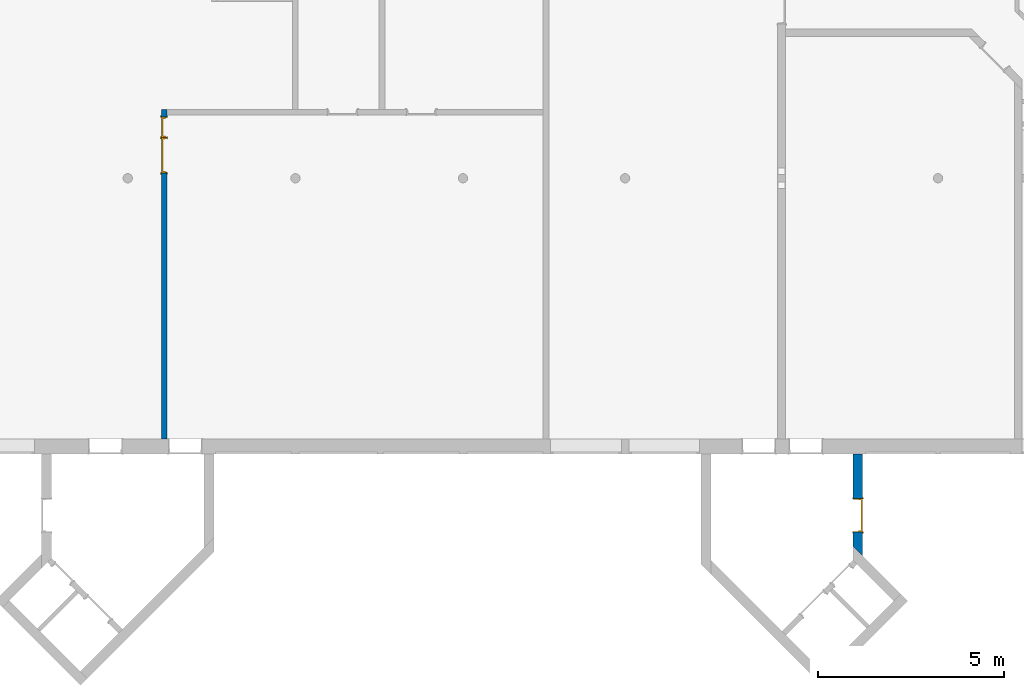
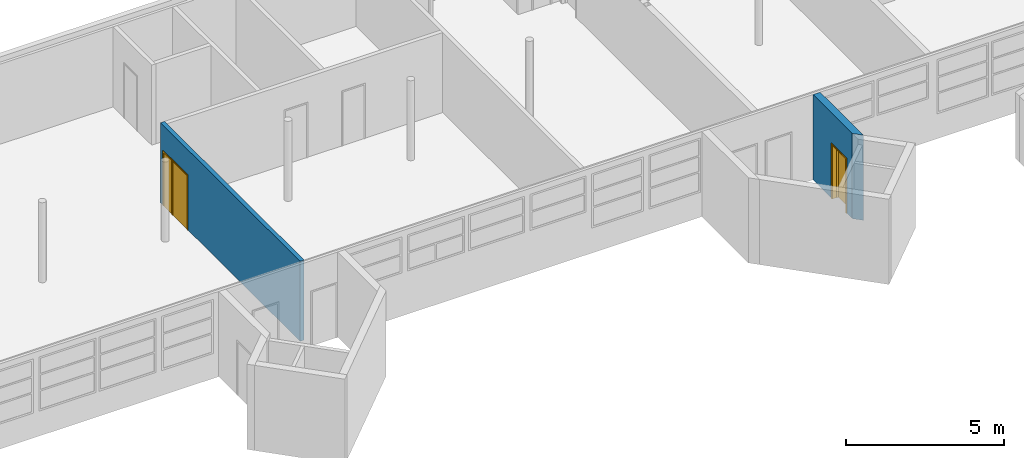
# One storey, part 2 of 25: 3 doors, 2 walls, 3 openings.
"""IFC2X3 building model written with IfcOpenShell, lengths in millimetres."""

from ifc_helpers import new_model, entity, si_unit, converted_unit, derived_unit, money_unit, direction, frame, origin_with_axes, place, context, subcontext, project, spatial, faceted_brep, source, transform, mapped, material, type_object, element, fill, save


model = new_model("IFC2X3")

# Units and contexts
model_context = context("Model", 3, precision=0.01, world=origin_with_axes(), true_north=direction((0.0, 1.0)))
body_context = subcontext(model_context, "Body", "Model", "MODEL_VIEW")
ifc_project = project(units=[si_unit("LENGTHUNIT", "METRE", prefix="MILLI"), si_unit("AREAUNIT", "SQUARE_METRE"), si_unit("VOLUMEUNIT", "CUBIC_METRE"), converted_unit("PLANEANGLEUNIT", "DEGREE", entity("IfcPlaneAngleMeasure", 0.0174532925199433), si_unit("PLANEANGLEUNIT", "RADIAN"), dimensions=[0, 0, 0, 0, 0, 0, 0]), money_unit("USD"), converted_unit("TIMEUNIT", "Year", entity("IfcTimeMeasure", 31557600.0), si_unit("TIMEUNIT", "SECOND"), dimensions=[0, 0, 1, 0, 0, 0, 0]), si_unit("MASSUNIT", "GRAM", prefix="KILO"), si_unit("THERMODYNAMICTEMPERATUREUNIT", "DEGREE_CELSIUS"), si_unit("LUMINOUSINTENSITYUNIT", "LUMEN"), si_unit("ENERGYUNIT", "JOULE", prefix="MEGA"), derived_unit("THERMALCONDUCTANCEUNIT", [(si_unit("POWERUNIT", "WATT"), 1), (si_unit("LENGTHUNIT", "METRE"), -1), (si_unit("THERMODYNAMICTEMPERATUREUNIT", "KELVIN"), -1)]), derived_unit("SPECIFICHEATCAPACITYUNIT", [(si_unit("ENERGYUNIT", "JOULE"), 1), (si_unit("MASSUNIT", "GRAM", prefix="KILO"), -1), (si_unit("THERMODYNAMICTEMPERATUREUNIT", "KELVIN"), -1)]), derived_unit("MASSDENSITYUNIT", [(si_unit("MASSUNIT", "GRAM", prefix="KILO"), 1), (si_unit("VOLUMEUNIT", "CUBIC_METRE"), -1)])], contexts=[model_context])

# Site, building, storey
site_placement = place(None, origin_with_axes())
site = spatial("IfcSite", under=ifc_project, at=site_placement, Name="Site", CompositionType="ELEMENT")
building_placement = place(site_placement, origin_with_axes())
building = spatial("IfcBuilding", under=site, at=building_placement, Name="Building", CompositionType="ELEMENT")
storey_placement = place(building_placement, origin_with_axes())
storey = spatial("IfcBuildingStorey", under=building, at=storey_placement, Name="U ETG", CompositionType="ELEMENT", Elevation=0.0)

# Wall, opening, door
ifc_material_1 = material(Name="GENERIC - STRUCTURAL")
wall_type_1 = type_object("IfcWallType", Name="GENERIC - STRUCTURAL 260", PredefinedType="NOTDEFINED")
wall_1_placement = place(storey_placement, frame((55467.8438427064, 4249.570929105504, 0.0), z_axis=(0.0, 0.0, 1.0), x_axis=(0.0, 1.0, 0.0)))
wall_1 = element("IfcWall", 1, at=wall_1_placement, inside=storey, type_object=wall_type_1, material=ifc_material_1, Name="SW - 001", context=body_context, shape_type="Brep", body=[
    faceted_brep([(750.0000000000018, -259.999999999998, 0.0), (750.0000000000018, -259.999999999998, 2100.0), (1650.000000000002, -259.999999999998, 2100.0), (1650.000000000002, -259.999999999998, 0.0), (2849.999999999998, -259.999999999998, 0.0), (2849.999999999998, -259.999999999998, 3300.0), (107.6955262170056, -259.999999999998, 3300.0), (107.6955262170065, -259.999999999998, 0.0), (750.0000000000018, 0.0, 0.0), (750.0000000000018, 0.0, 2100.0), (1650.000000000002, 0.0, 2100.0), (1650.000000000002, 0.0, 0.0), (2849.999999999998, 0.0, 0.0), (2849.999999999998, 0.0, 3300.0), (367.6955262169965, 0.0, 3300.0), (367.6955262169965, 0.0, 0.0)], [[[0, 1, 2, 3, 4, 5, 6, 7]], [[1, 0, 8, 9]], [[2, 1, 9, 10]], [[3, 2, 10, 11]], [[3, 11, 12, 4]], [[12, 13, 5, 4]], [[14, 6, 5, 13]], [[14, 15, 7, 6]], [[8, 0, 7, 15]], [[9, 8, 15, 14, 13, 12, 11, 10]]]),
])
opening_1_placement = place(wall_1_placement, frame((1200.000000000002, 0.0, 0.0), z_axis=(0.0, 0.0, 1.0), x_axis=(1.0, 0.0, 0.0)))
opening_1 = element("IfcOpeningElement", 2, at=opening_1_placement, cuts=wall_1, Name="DOO - 002", context=body_context, shape_type="Brep", body=[
    faceted_brep([(450.0000000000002, -260.9999999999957, 0.0), (450.0000000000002, -260.9999999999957, 2100.0), (-450.0000000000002, -260.9999999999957, 2100.0), (-450.0000000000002, -260.9999999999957, 0.0), (487.0000000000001, -260.9999999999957, 0.0), (487.0000000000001, -260.9999999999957, 2137.0), (-487.0000000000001, -260.9999999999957, 2137.0), (-487.0000000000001, -260.9999999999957, 0.0), (450.0000000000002, -259.999999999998, 0.0), (-450.0000000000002, -259.999999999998, 0.0), (-450.0000000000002, 0.0, 0.0), (-450.0000000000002, 0.9999999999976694, 0.0), (450.0000000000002, 0.9999999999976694, 0.0), (450.0000000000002, 0.0, 0.0), (487.0000000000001, -259.999999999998, 0.0), (487.0000000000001, -259.999999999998, 2137.0), (-487.0000000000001, -259.999999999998, 2137.0), (-487.0000000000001, -259.999999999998, 0.0), (-450.0000000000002, -259.999999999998, 2100.0), (-450.0000000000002, 0.0, 2100.0), (-487.0000000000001, 0.0, 0.0), (-487.0000000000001, 0.9999999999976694, 0.0), (-487.0000000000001, 0.9999999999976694, 2137.0), (487.0000000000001, 0.9999999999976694, 2137.0), (487.0000000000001, 0.9999999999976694, 0.0), (487.0000000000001, 0.0, 0.0), (450.0000000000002, -259.999999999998, 2100.0), (450.0000000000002, 0.0, 2100.0), (487.0000000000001, 0.0, 2137.0), (-487.0000000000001, 0.0, 2137.0)], [[[0, 1, 2, 3]], [[2, 1, 0, 4, 5, 6, 7, 3]], [[8, 0, 3, 9, 10, 11, 12, 13]], [[0, 8, 14, 4]], [[14, 15, 5, 4]], [[15, 16, 6, 5]], [[16, 17, 7, 6]], [[9, 3, 7, 17]], [[9, 18, 19, 10]], [[11, 10, 20, 21]], [[12, 11, 21, 22, 23, 24]], [[13, 12, 24, 25]], [[26, 8, 13, 27]], [[8, 26, 18, 9, 17, 16, 15, 14]], [[18, 26, 27, 19]], [[19, 27, 13, 25, 28, 29, 20, 10]], [[20, 29, 22, 21]], [[29, 28, 23, 22]], [[28, 25, 24, 23]]]),
])
door_style_1 = type_object("IfcDoorStyle", Name="Dør", ConstructionType="NOTDEFINED", OperationType="SINGLE_SWING_LEFT", ParameterTakesPrecedence=False, Sizeable=False)
shared_shape_1 = source(origin_with_axes(), body_context, "Body", "Brep", [
    faceted_brep([(450.0, -115.0, 0.0), (450.0, -260.0, 0.0), (425.0, -260.0, 0.0), (425.0, -115.0, 0.0), (450.0, -115.0000000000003, 2100.0), (450.0, -260.0000000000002, 2100.0), (425.0, -260.0000000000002, 2075.0), (425.0, -115.0000000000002, 2075.0)], [[[0, 1, 2, 3]], [[4, 5, 1, 0]], [[1, 5, 6, 2]], [[3, 2, 6, 7]], [[0, 3, 7, 4]], [[7, 6, 5, 4]]]),
    faceted_brep([(-450.0, -115.0000000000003, 2100.0), (-450.0, -260.0000000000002, 2100.0), (-425.0, -260.0000000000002, 2075.0), (-425.0, -115.0000000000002, 2075.0), (-450.0, -115.0, 0.0), (-450.0, -260.0, 0.0), (-425.0, -260.0, 0.0), (-425.0, -115.0, 0.0)], [[[0, 1, 2, 3]], [[4, 5, 1, 0]], [[1, 5, 6, 2]], [[3, 2, 6, 7]], [[0, 3, 7, 4]], [[7, 6, 5, 4]]]),
    faceted_brep([(425.0, -115.0000000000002, 2075.0), (425.0, -260.0000000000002, 2075.0), (-425.0, -260.0000000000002, 2075.0), (-425.0, -115.0000000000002, 2075.0), (450.0, -115.0000000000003, 2100.0), (450.0, -260.0000000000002, 2100.0), (-450.0, -260.0000000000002, 2100.0), (-450.0, -115.0000000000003, 2100.0)], [[[0, 1, 2, 3]], [[4, 5, 1, 0]], [[1, 5, 6, 2]], [[3, 2, 6, 7]], [[0, 3, 7, 4]], [[7, 6, 5, 4]]]),
    faceted_brep([(487.0, -279.0, 0.0), (437.0, -279.0, 0.0), (437.0, -260.0, 0.0), (487.0, -260.0, 0.0), (487.0, -279.0000000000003, 2137.0), (437.0, -279.0000000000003, 2087.0), (437.0, -260.0000000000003, 2087.0), (487.0, -260.0000000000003, 2137.0)], [[[0, 1, 2, 3]], [[0, 4, 5, 1]], [[1, 5, 6, 2]], [[3, 2, 6, 7]], [[4, 0, 3, 7]], [[5, 4, 7, 6]]]),
    faceted_brep([(-487.0, -279.0000000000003, 2137.0), (-437.0, -279.0000000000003, 2087.0), (-437.0, -260.0000000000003, 2087.0), (-487.0, -260.0000000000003, 2137.0), (-487.0, -279.0, 0.0), (-437.0, -279.0, 0.0), (-437.0, -260.0, 0.0), (-487.0, -260.0, 0.0)], [[[0, 1, 2, 3]], [[0, 4, 5, 1]], [[1, 5, 6, 2]], [[3, 2, 6, 7]], [[4, 0, 3, 7]], [[5, 4, 7, 6]]]),
    faceted_brep([(487.0, -279.0000000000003, 2137.0), (437.0, -279.0000000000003, 2087.0), (437.0, -260.0000000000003, 2087.0), (487.0, -260.0000000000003, 2137.0), (-487.0, -279.0000000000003, 2137.0), (-437.0, -279.0000000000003, 2087.0), (-437.0, -260.0000000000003, 2087.0), (-487.0, -260.0000000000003, 2137.0)], [[[0, 1, 2, 3]], [[0, 4, 5, 1]], [[1, 5, 6, 2]], [[3, 2, 6, 7]], [[4, 0, 3, 7]], [[5, 4, 7, 6]]]),
    faceted_brep([(487.0, 19.0, 0.0), (487.0, 0.0, 0.0), (437.0, 0.0, 0.0), (437.0, 19.0, 0.0), (487.0, 18.99999999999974, 2137.0), (487.0, 0.0, 2137.0), (437.0, 0.0, 2087.0), (437.0, 18.99999999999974, 2087.0)], [[[0, 1, 2, 3]], [[4, 5, 1, 0]], [[1, 5, 6, 2]], [[3, 2, 6, 7]], [[0, 3, 7, 4]], [[7, 6, 5, 4]]]),
    faceted_brep([(-487.0, 18.99999999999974, 2137.0), (-487.0, 0.0, 2137.0), (-437.0, 0.0, 2087.0), (-437.0, 18.99999999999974, 2087.0), (-487.0, 19.0, 0.0), (-487.0, 0.0, 0.0), (-437.0, 0.0, 0.0), (-437.0, 19.0, 0.0)], [[[0, 1, 2, 3]], [[4, 5, 1, 0]], [[1, 5, 6, 2]], [[3, 2, 6, 7]], [[0, 3, 7, 4]], [[7, 6, 5, 4]]]),
    faceted_brep([(487.0, 18.99999999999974, 2137.0), (487.0, 0.0, 2137.0), (437.0, 0.0, 2087.0), (437.0, 18.99999999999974, 2087.0), (-487.0, 18.99999999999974, 2137.0), (-487.0, 0.0, 2137.0), (-437.0, 0.0, 2087.0), (-437.0, 18.99999999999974, 2087.0)], [[[0, 1, 2, 3]], [[4, 5, 1, 0]], [[1, 5, 6, 2]], [[3, 2, 6, 7]], [[0, 3, 7, 4]], [[7, 6, 5, 4]]]),
    faceted_brep([(450.0, 0.0, 0.0), (450.0, -115.0, 0.0), (410.0000000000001, -115.0, 0.0), (410.0000000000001, 0.0, 0.0), (450.0, 0.0, 2060.0), (450.0, -115.0, 2060.0), (410.0000000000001, -115.0, 2060.0), (410.0000000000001, 0.0, 2060.0)], [[[0, 1, 2, 3]], [[4, 5, 1, 0]], [[1, 5, 6, 2]], [[3, 2, 6, 7]], [[0, 3, 7, 4]], [[7, 6, 5, 4]]]),
    faceted_brep([(-450.0, 0.0, 0.0), (-450.0, -115.0, 0.0), (-450.0, -115.0, 2060.0), (-450.0, 0.0, 2060.0), (-410.0000000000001, 0.0, 0.0), (-410.0000000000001, -115.0, 0.0), (-410.0000000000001, -115.0, 2060.0), (-410.0000000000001, 0.0, 2060.0)], [[[0, 1, 2, 3]], [[4, 5, 1, 0]], [[1, 5, 6, 2]], [[3, 2, 6, 7]], [[0, 3, 7, 4]], [[7, 6, 5, 4]]]),
    faceted_brep([(450.0, 0.0, 2100.0), (450.0, -115.0, 2100.0), (450.0, -115.0, 2060.0), (450.0, 0.0, 2060.0), (-450.0, 0.0, 2100.0), (-450.0, -115.0, 2100.0), (-450.0, -115.0, 2060.0), (-410.0000000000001, -115.0, 2060.0), (410.0000000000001, -115.0, 2060.0), (410.0000000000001, 0.0, 2060.0), (-410.0000000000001, 0.0, 2060.0), (-450.0, 0.0, 2060.0)], [[[0, 1, 2, 3]], [[4, 5, 1, 0]], [[1, 5, 6, 7, 8, 2]], [[3, 2, 8, 9]], [[0, 3, 9, 10, 11, 4]], [[11, 6, 5, 4]], [[10, 7, 6, 11]], [[9, 8, 7, 10]]]),
    faceted_brep([(-409.9999999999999, 0.0, 0.0), (410.0000000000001, 0.0, 0.0), (410.0000000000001, -40.0, 0.0), (-409.9999999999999, -40.0, 0.0), (-409.9999999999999, 0.0, 2060.0), (410.0000000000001, 0.0, 2060.0), (410.0000000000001, -40.00000000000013, 2060.0), (-409.9999999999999, -40.00000000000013, 2060.0)], [[[0, 1, 2, 3]], [[0, 4, 5, 1]], [[1, 5, 6, 2]], [[3, 2, 6, 7]], [[4, 0, 3, 7]], [[5, 4, 7, 6]]]),
])
door_1_placement = place(opening_1_placement, frame((450.0000000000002, 0.0, 0.0), z_axis=(0.0, 0.0, 1.0), x_axis=(-1.0, 0.0, 0.0)))
door_1 = element("IfcDoor", 3, at=door_1_placement, inside=storey, type_object=door_style_1, Name="DOO - 002", ObjectType="DOOR", OverallHeight=2100.0, OverallWidth=900.0, context=body_context, shape_type="MappedRepresentation", body=[
    mapped(shared_shape_1, transform((450.0000000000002, 259.999999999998, 0.0))),
])
fill(opening_1, door_1)

# Wall, openings, doors
ifc_material_2 = material(Name="GENERIC - INTERNAL FILLER")
wall_type_2 = type_object("IfcWallType", Name="GENERIC - INTERNAL FILLER 150", PredefinedType="NOTDEFINED")
wall_2_placement = place(storey_placement, frame((37050.0, 7499.570929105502, 0.0), z_axis=(0.0, 0.0, 1.0), x_axis=(0.0, 1.0, 0.0)))
wall_2 = element("IfcWall", 4, at=wall_2_placement, inside=storey, type_object=wall_type_2, material=ifc_material_2, Name="SW - 001", context=body_context, shape_type="Brep", body=[
    faceted_brep([(8649.999999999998, 0.0, 2100.0), (8649.999999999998, 0.0, 0.0), (8849.999999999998, 0.0, 0.0), (8849.999999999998, 0.0, 3100.0), (0.0, 0.0, 3100.0), (0.0, 0.0, 0.0), (7139.664467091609, 0.0, 0.0), (7139.664467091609, 0.0, 2100.0), (8089.664467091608, 0.0, 2100.0), (8649.999999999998, 149.9999999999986, 2100.0), (8649.999999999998, 149.9999999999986, 0.0), (8849.999999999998, 149.9999999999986, 0.0), (8849.999999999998, 149.9999999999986, 3100.0), (0.0, 149.9999999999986, 3100.0), (0.0, 149.9999999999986, 0.0), (7139.664467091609, 149.9999999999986, 0.0), (7139.664467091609, 149.9999999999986, 2100.0), (8089.664467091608, 149.9999999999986, 2100.0)], [[[0, 1, 2, 3, 4, 5, 6, 7, 8]], [[1, 0, 9, 10]], [[1, 10, 11, 2]], [[12, 3, 2, 11]], [[13, 4, 3, 12]], [[5, 4, 13, 14]], [[6, 5, 14, 15]], [[6, 15, 16, 7]], [[0, 8, 7, 16, 17, 9]], [[9, 17, 16, 15, 14, 13, 12, 11, 10]]]),
])
opening_2_placement = place(wall_2_placement, frame((8369.617698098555, 0.0, 0.0), z_axis=(0.0, 0.0, 1.0), x_axis=(1.0, 0.0, 0.0)))
opening_2 = element("IfcOpeningElement", 5, at=opening_2_placement, cuts=wall_2, Name="DOO - 002", context=body_context, shape_type="Brep", body=[
    faceted_brep([(280.3823019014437, 149.9999999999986, 0.0), (280.3823019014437, 149.9999999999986, 2100.0), (280.3823019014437, 0.0, 2100.0), (280.3823019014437, 0.0, 0.0), (-280.3823019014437, 149.9999999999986, 2100.0), (317.3823019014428, 149.9999999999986, 0.0), (317.3823019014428, 149.9999999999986, 2137.0), (-317.3823019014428, 149.9999999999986, 2137.0), (-317.3823019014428, 149.9999999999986, 0.0), (-280.3823019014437, 149.9999999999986, 0.0), (-280.3823019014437, 0.0, 2100.0), (-280.3823019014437, 0.0, 0.0), (-317.3823019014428, 0.0, 0.0), (-317.3823019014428, 0.0, 2137.0), (317.3823019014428, 0.0, 2137.0), (317.3823019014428, 0.0, 0.0), (280.3823019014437, 150.9999999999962, 0.0), (280.3823019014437, -0.9999999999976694, 0.0), (-280.3823019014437, -0.9999999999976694, 0.0), (-280.3823019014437, 150.9999999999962, 0.0), (317.3823019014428, 150.9999999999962, 0.0), (317.3823019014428, 150.9999999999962, 2137.0), (-317.3823019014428, 150.9999999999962, 2137.0), (-317.3823019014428, 150.9999999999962, 0.0), (-317.3823019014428, -0.9999999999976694, 0.0), (-317.3823019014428, -0.9999999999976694, 2137.0), (317.3823019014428, -0.9999999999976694, 2137.0), (317.3823019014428, -0.9999999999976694, 0.0), (280.3823019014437, 150.9999999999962, 2100.0), (-280.3823019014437, 150.9999999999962, 2100.0)], [[[0, 1, 2, 3]], [[4, 1, 0, 5, 6, 7, 8, 9]], [[1, 4, 10, 2]], [[3, 2, 10, 11, 12, 13, 14, 15]], [[16, 0, 3, 17, 18, 11, 9, 19]], [[0, 16, 20, 5]], [[6, 5, 20, 21]], [[7, 6, 21, 22]], [[8, 7, 22, 23]], [[19, 9, 8, 23]], [[4, 9, 11, 10]], [[11, 18, 24, 12]], [[13, 12, 24, 25]], [[14, 13, 25, 26]], [[15, 14, 26, 27]], [[17, 3, 15, 27]], [[17, 27, 26, 25, 24, 18]], [[28, 16, 19, 29]], [[16, 28, 29, 19, 23, 22, 21, 20]]]),
])
opening_3_placement = place(wall_2_placement, frame((7614.664467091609, 0.0, 0.0), z_axis=(0.0, 0.0, 1.0), x_axis=(1.0, 0.0, 0.0)))
opening_3 = element("IfcOpeningElement", 6, at=opening_3_placement, cuts=wall_2, Name="DOO - 002", context=body_context, shape_type="Brep", body=[
    faceted_brep([(474.9999999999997, 149.9999999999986, 0.0), (474.9999999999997, 149.9999999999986, 2100.0), (474.9999999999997, 0.0, 2100.0), (474.9999999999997, 0.0, 0.0), (-474.9999999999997, 149.9999999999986, 2100.0), (511.9999999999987, 149.9999999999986, 0.0), (511.9999999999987, 149.9999999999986, 2137.0), (-511.9999999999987, 149.9999999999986, 2137.0), (-511.9999999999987, 149.9999999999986, 0.0), (-474.9999999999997, 149.9999999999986, 0.0), (-474.9999999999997, 0.0, 2100.0), (-474.9999999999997, 0.0, 0.0), (-511.9999999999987, 0.0, 0.0), (-511.9999999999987, 0.0, 2137.0), (511.9999999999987, 0.0, 2137.0), (511.9999999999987, 0.0, 0.0), (474.9999999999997, 150.9999999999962, 0.0), (474.9999999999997, -0.9999999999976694, 0.0), (-474.9999999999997, -0.9999999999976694, 0.0), (-474.9999999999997, 150.9999999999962, 0.0), (511.9999999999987, 150.9999999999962, 0.0), (511.9999999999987, 150.9999999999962, 2137.0), (-511.9999999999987, 150.9999999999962, 2137.0), (-511.9999999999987, 150.9999999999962, 0.0), (-511.9999999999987, -0.9999999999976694, 0.0), (-511.9999999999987, -0.9999999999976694, 2137.0), (511.9999999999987, -0.9999999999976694, 2137.0), (511.9999999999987, -0.9999999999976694, 0.0), (474.9999999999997, 150.9999999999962, 2100.0), (-474.9999999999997, 150.9999999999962, 2100.0)], [[[0, 1, 2, 3]], [[4, 1, 0, 5, 6, 7, 8, 9]], [[1, 4, 10, 2]], [[3, 2, 10, 11, 12, 13, 14, 15]], [[16, 0, 3, 17, 18, 11, 9, 19]], [[0, 16, 20, 5]], [[6, 5, 20, 21]], [[7, 6, 21, 22]], [[8, 7, 22, 23]], [[19, 9, 8, 23]], [[4, 9, 11, 10]], [[11, 18, 24, 12]], [[13, 12, 24, 25]], [[14, 13, 25, 26]], [[15, 14, 26, 27]], [[17, 3, 15, 27]], [[17, 27, 26, 25, 24, 18]], [[28, 16, 19, 29]], [[16, 28, 29, 19, 23, 22, 21, 20]]]),
])
door_style_2 = type_object("IfcDoorStyle", Name="Dør", ConstructionType="NOTDEFINED", OperationType="SINGLE_SWING_LEFT", ParameterTakesPrecedence=False, Sizeable=False)
shared_shape_2 = source(origin_with_axes(), body_context, "Body", "Brep", [
    faceted_brep([(474.9999999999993, -115.0, 0.0), (474.9999999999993, -150.0, 0.0), (449.9999999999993, -150.0, 0.0), (449.9999999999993, -115.0, 0.0), (474.9999999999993, -115.0000000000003, 2100.0), (474.9999999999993, -150.0000000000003, 2100.0), (449.9999999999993, -150.0000000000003, 2075.0), (449.9999999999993, -115.0000000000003, 2075.0)], [[[0, 1, 2, 3]], [[4, 5, 1, 0]], [[1, 5, 6, 2]], [[3, 2, 6, 7]], [[0, 3, 7, 4]], [[7, 6, 5, 4]]]),
    faceted_brep([(-474.9999999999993, -115.0000000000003, 2100.0), (-474.9999999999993, -150.0000000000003, 2100.0), (-449.9999999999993, -150.0000000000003, 2075.0), (-449.9999999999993, -115.0000000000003, 2075.0), (-474.9999999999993, -115.0, 0.0), (-474.9999999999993, -150.0, 0.0), (-449.9999999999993, -150.0, 0.0), (-449.9999999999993, -115.0, 0.0)], [[[0, 1, 2, 3]], [[4, 5, 1, 0]], [[1, 5, 6, 2]], [[3, 2, 6, 7]], [[0, 3, 7, 4]], [[7, 6, 5, 4]]]),
    faceted_brep([(449.9999999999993, -115.0000000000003, 2075.0), (449.9999999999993, -150.0000000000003, 2075.0), (-449.9999999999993, -150.0000000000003, 2075.0), (-449.9999999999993, -115.0000000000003, 2075.0), (474.9999999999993, -115.0000000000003, 2100.0), (474.9999999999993, -150.0000000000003, 2100.0), (-474.9999999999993, -150.0000000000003, 2100.0), (-474.9999999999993, -115.0000000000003, 2100.0)], [[[0, 1, 2, 3]], [[4, 5, 1, 0]], [[1, 5, 6, 2]], [[3, 2, 6, 7]], [[0, 3, 7, 4]], [[7, 6, 5, 4]]]),
    faceted_brep([(511.9999999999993, -169.0, 0.0), (461.9999999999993, -169.0, 0.0), (461.9999999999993, -150.0, 0.0), (511.9999999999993, -150.0, 0.0), (511.9999999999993, -169.0000000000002, 2137.0), (461.9999999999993, -169.0000000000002, 2087.0), (461.9999999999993, -150.0000000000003, 2087.0), (511.9999999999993, -150.0000000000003, 2137.0)], [[[0, 1, 2, 3]], [[0, 4, 5, 1]], [[1, 5, 6, 2]], [[3, 2, 6, 7]], [[4, 0, 3, 7]], [[5, 4, 7, 6]]]),
    faceted_brep([(-511.9999999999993, -169.0000000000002, 2137.0), (-461.9999999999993, -169.0000000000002, 2087.0), (-461.9999999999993, -150.0000000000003, 2087.0), (-511.9999999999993, -150.0000000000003, 2137.0), (-511.9999999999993, -169.0, 0.0), (-461.9999999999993, -169.0, 0.0), (-461.9999999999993, -150.0, 0.0), (-511.9999999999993, -150.0, 0.0)], [[[0, 1, 2, 3]], [[0, 4, 5, 1]], [[1, 5, 6, 2]], [[3, 2, 6, 7]], [[4, 0, 3, 7]], [[5, 4, 7, 6]]]),
    faceted_brep([(511.9999999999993, -169.0000000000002, 2137.0), (461.9999999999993, -169.0000000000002, 2087.0), (461.9999999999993, -150.0000000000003, 2087.0), (511.9999999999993, -150.0000000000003, 2137.0), (-511.9999999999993, -169.0000000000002, 2137.0), (-461.9999999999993, -169.0000000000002, 2087.0), (-461.9999999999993, -150.0000000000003, 2087.0), (-511.9999999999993, -150.0000000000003, 2137.0)], [[[0, 1, 2, 3]], [[0, 4, 5, 1]], [[1, 5, 6, 2]], [[3, 2, 6, 7]], [[4, 0, 3, 7]], [[5, 4, 7, 6]]]),
    faceted_brep([(511.9999999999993, 19.0, 0.0), (511.9999999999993, 0.0, 0.0), (461.9999999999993, 0.0, 0.0), (461.9999999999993, 19.0, 0.0), (511.9999999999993, 18.99999999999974, 2137.0), (511.9999999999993, 0.0, 2137.0), (461.9999999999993, 0.0, 2087.0), (461.9999999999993, 18.99999999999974, 2087.0)], [[[0, 1, 2, 3]], [[4, 5, 1, 0]], [[1, 5, 6, 2]], [[3, 2, 6, 7]], [[0, 3, 7, 4]], [[7, 6, 5, 4]]]),
    faceted_brep([(-511.9999999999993, 18.99999999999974, 2137.0), (-511.9999999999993, 0.0, 2137.0), (-461.9999999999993, 0.0, 2087.0), (-461.9999999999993, 18.99999999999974, 2087.0), (-511.9999999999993, 19.0, 0.0), (-511.9999999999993, 0.0, 0.0), (-461.9999999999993, 0.0, 0.0), (-461.9999999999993, 19.0, 0.0)], [[[0, 1, 2, 3]], [[4, 5, 1, 0]], [[1, 5, 6, 2]], [[3, 2, 6, 7]], [[0, 3, 7, 4]], [[7, 6, 5, 4]]]),
    faceted_brep([(511.9999999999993, 18.99999999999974, 2137.0), (511.9999999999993, 0.0, 2137.0), (461.9999999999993, 0.0, 2087.0), (461.9999999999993, 18.99999999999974, 2087.0), (-511.9999999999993, 18.99999999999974, 2137.0), (-511.9999999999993, 0.0, 2137.0), (-461.9999999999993, 0.0, 2087.0), (-461.9999999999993, 18.99999999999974, 2087.0)], [[[0, 1, 2, 3]], [[4, 5, 1, 0]], [[1, 5, 6, 2]], [[3, 2, 6, 7]], [[0, 3, 7, 4]], [[7, 6, 5, 4]]]),
    faceted_brep([(474.9999999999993, 0.0, 0.0), (474.9999999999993, -115.0, 0.0), (434.9999999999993, -115.0, 0.0), (434.9999999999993, 0.0, 0.0), (474.9999999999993, 0.0, 2060.0), (474.9999999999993, -115.0, 2060.0), (434.9999999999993, -115.0, 2060.0), (434.9999999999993, 0.0, 2060.0)], [[[0, 1, 2, 3]], [[4, 5, 1, 0]], [[1, 5, 6, 2]], [[3, 2, 6, 7]], [[0, 3, 7, 4]], [[7, 6, 5, 4]]]),
    faceted_brep([(-474.9999999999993, 0.0, 0.0), (-474.9999999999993, -115.0, 0.0), (-474.9999999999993, -115.0, 2060.0), (-474.9999999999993, 0.0, 2060.0), (-434.9999999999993, 0.0, 0.0), (-434.9999999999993, -115.0, 0.0), (-434.9999999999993, -115.0, 2060.0), (-434.9999999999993, 0.0, 2060.0)], [[[0, 1, 2, 3]], [[4, 5, 1, 0]], [[1, 5, 6, 2]], [[3, 2, 6, 7]], [[0, 3, 7, 4]], [[7, 6, 5, 4]]]),
    faceted_brep([(474.9999999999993, 0.0, 2100.0), (474.9999999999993, -115.0, 2100.0), (474.9999999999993, -115.0, 2060.0), (474.9999999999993, 0.0, 2060.0), (-474.9999999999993, 0.0, 2100.0), (-474.9999999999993, -115.0, 2100.0), (-474.9999999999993, -115.0, 2060.0), (-434.9999999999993, -115.0, 2060.0), (434.9999999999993, -115.0, 2060.0), (434.9999999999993, 0.0, 2060.0), (-434.9999999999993, 0.0, 2060.0), (-474.9999999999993, 0.0, 2060.0)], [[[0, 1, 2, 3]], [[4, 5, 1, 0]], [[1, 5, 6, 7, 8, 2]], [[3, 2, 8, 9]], [[0, 3, 9, 10, 11, 4]], [[11, 6, 5, 4]], [[10, 7, 6, 11]], [[9, 8, 7, 10]]]),
    faceted_brep([(-434.9999999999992, 0.0, 0.0), (434.9999999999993, 0.0, 0.0), (434.9999999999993, -40.0, 0.0), (-434.9999999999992, -40.0, 0.0), (-434.9999999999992, 0.0, 2060.0), (434.9999999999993, 0.0, 2060.0), (434.9999999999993, -40.00000000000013, 2060.0), (-434.9999999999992, -40.00000000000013, 2060.0)], [[[0, 1, 2, 3]], [[0, 4, 5, 1]], [[1, 5, 6, 2]], [[3, 2, 6, 7]], [[4, 0, 3, 7]], [[5, 4, 7, 6]]]),
])
door_2_placement = place(opening_3_placement, frame((-474.9999999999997, 0.0, 0.0), z_axis=(0.0, 0.0, 1.0), x_axis=(1.0, 0.0, 0.0)))
door_2 = element("IfcDoor", 7, at=door_2_placement, inside=storey, type_object=door_style_2, Name="DOO - 002", ObjectType="DOOR", OverallHeight=2100.0, OverallWidth=950.0, context=body_context, shape_type="MappedRepresentation", body=[
    mapped(shared_shape_2, transform((474.9999999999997, 149.9999999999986, 0.0))),
])
fill(opening_3, door_2)
door_style_3 = type_object("IfcDoorStyle", Name="Dør", ConstructionType="NOTDEFINED", OperationType="SINGLE_SWING_RIGHT", ParameterTakesPrecedence=False, Sizeable=False)
shared_shape_3 = source(origin_with_axes(), body_context, "Body", "Brep", [
    faceted_brep([(-280.3823019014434, -115.0, 0.0), (-255.3823019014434, -115.0, 0.0), (-255.3823019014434, -150.0, 0.0), (-280.3823019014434, -150.0, 0.0), (-280.3823019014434, -115.0000000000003, 2100.0), (-255.3823019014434, -115.0000000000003, 2075.0), (-255.3823019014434, -150.0000000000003, 2075.0), (-280.3823019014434, -150.0000000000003, 2100.0)], [[[0, 1, 2, 3]], [[0, 4, 5, 1]], [[1, 5, 6, 2]], [[3, 2, 6, 7]], [[4, 0, 3, 7]], [[5, 4, 7, 6]]]),
    faceted_brep([(280.3823019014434, -115.0000000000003, 2100.0), (255.3823019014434, -115.0000000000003, 2075.0), (255.3823019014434, -150.0000000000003, 2075.0), (280.3823019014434, -150.0000000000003, 2100.0), (280.3823019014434, -115.0, 0.0), (255.3823019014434, -115.0, 0.0), (255.3823019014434, -150.0, 0.0), (280.3823019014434, -150.0, 0.0)], [[[0, 1, 2, 3]], [[0, 4, 5, 1]], [[1, 5, 6, 2]], [[3, 2, 6, 7]], [[4, 0, 3, 7]], [[5, 4, 7, 6]]]),
    faceted_brep([(-255.3823019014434, -115.0000000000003, 2075.0), (255.3823019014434, -115.0000000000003, 2075.0), (255.3823019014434, -150.0000000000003, 2075.0), (-255.3823019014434, -150.0000000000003, 2075.0), (-280.3823019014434, -115.0000000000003, 2100.0), (280.3823019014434, -115.0000000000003, 2100.0), (280.3823019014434, -150.0000000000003, 2100.0), (-280.3823019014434, -150.0000000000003, 2100.0)], [[[0, 1, 2, 3]], [[0, 4, 5, 1]], [[1, 5, 6, 2]], [[3, 2, 6, 7]], [[4, 0, 3, 7]], [[5, 4, 7, 6]]]),
    faceted_brep([(-317.3823019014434, -169.0, 0.0), (-317.3823019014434, -150.0, 0.0), (-267.3823019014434, -150.0, 0.0), (-267.3823019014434, -169.0, 0.0), (-317.3823019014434, -169.0000000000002, 2137.0), (-317.3823019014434, -150.0000000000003, 2137.0), (-267.3823019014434, -150.0000000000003, 2087.0), (-267.3823019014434, -169.0000000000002, 2087.0)], [[[0, 1, 2, 3]], [[4, 5, 1, 0]], [[1, 5, 6, 2]], [[3, 2, 6, 7]], [[0, 3, 7, 4]], [[7, 6, 5, 4]]]),
    faceted_brep([(317.3823019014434, -169.0000000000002, 2137.0), (317.3823019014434, -150.0000000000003, 2137.0), (267.3823019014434, -150.0000000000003, 2087.0), (267.3823019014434, -169.0000000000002, 2087.0), (317.3823019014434, -169.0, 0.0), (317.3823019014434, -150.0, 0.0), (267.3823019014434, -150.0, 0.0), (267.3823019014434, -169.0, 0.0)], [[[0, 1, 2, 3]], [[4, 5, 1, 0]], [[1, 5, 6, 2]], [[3, 2, 6, 7]], [[0, 3, 7, 4]], [[7, 6, 5, 4]]]),
    faceted_brep([(-317.3823019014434, -169.0000000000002, 2137.0), (-317.3823019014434, -150.0000000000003, 2137.0), (-267.3823019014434, -150.0000000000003, 2087.0), (-267.3823019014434, -169.0000000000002, 2087.0), (317.3823019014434, -169.0000000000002, 2137.0), (317.3823019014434, -150.0000000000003, 2137.0), (267.3823019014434, -150.0000000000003, 2087.0), (267.3823019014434, -169.0000000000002, 2087.0)], [[[0, 1, 2, 3]], [[4, 5, 1, 0]], [[1, 5, 6, 2]], [[3, 2, 6, 7]], [[0, 3, 7, 4]], [[7, 6, 5, 4]]]),
    faceted_brep([(-317.3823019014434, 19.0, 0.0), (-267.3823019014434, 19.0, 0.0), (-267.3823019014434, 0.0, 0.0), (-317.3823019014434, 0.0, 0.0), (-317.3823019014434, 18.99999999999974, 2137.0), (-267.3823019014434, 18.99999999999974, 2087.0), (-267.3823019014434, 0.0, 2087.0), (-317.3823019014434, 0.0, 2137.0)], [[[0, 1, 2, 3]], [[0, 4, 5, 1]], [[1, 5, 6, 2]], [[3, 2, 6, 7]], [[4, 0, 3, 7]], [[5, 4, 7, 6]]]),
    faceted_brep([(317.3823019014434, 18.99999999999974, 2137.0), (267.3823019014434, 18.99999999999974, 2087.0), (267.3823019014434, 0.0, 2087.0), (317.3823019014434, 0.0, 2137.0), (317.3823019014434, 19.0, 0.0), (267.3823019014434, 19.0, 0.0), (267.3823019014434, 0.0, 0.0), (317.3823019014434, 0.0, 0.0)], [[[0, 1, 2, 3]], [[0, 4, 5, 1]], [[1, 5, 6, 2]], [[3, 2, 6, 7]], [[4, 0, 3, 7]], [[5, 4, 7, 6]]]),
    faceted_brep([(-317.3823019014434, 18.99999999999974, 2137.0), (-267.3823019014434, 18.99999999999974, 2087.0), (-267.3823019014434, 0.0, 2087.0), (-317.3823019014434, 0.0, 2137.0), (317.3823019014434, 18.99999999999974, 2137.0), (267.3823019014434, 18.99999999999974, 2087.0), (267.3823019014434, 0.0, 2087.0), (317.3823019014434, 0.0, 2137.0)], [[[0, 1, 2, 3]], [[0, 4, 5, 1]], [[1, 5, 6, 2]], [[3, 2, 6, 7]], [[4, 0, 3, 7]], [[5, 4, 7, 6]]]),
    faceted_brep([(-280.3823019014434, 0.0, 0.0), (-240.3823019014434, 0.0, 0.0), (-240.3823019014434, -115.0, 0.0), (-280.3823019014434, -115.0, 0.0), (-280.3823019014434, 0.0, 2060.0), (-240.3823019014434, 0.0, 2060.0), (-240.3823019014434, -115.0, 2060.0), (-280.3823019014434, -115.0, 2060.0)], [[[0, 1, 2, 3]], [[0, 4, 5, 1]], [[1, 5, 6, 2]], [[3, 2, 6, 7]], [[4, 0, 3, 7]], [[5, 4, 7, 6]]]),
    faceted_brep([(280.3823019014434, 0.0, 0.0), (280.3823019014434, 0.0, 2060.0), (280.3823019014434, -115.0, 2060.0), (280.3823019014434, -115.0, 0.0), (240.3823019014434, 0.0, 0.0), (240.3823019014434, 0.0, 2060.0), (240.3823019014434, -115.0, 2060.0), (240.3823019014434, -115.0, 0.0)], [[[0, 1, 2, 3]], [[0, 4, 5, 1]], [[1, 5, 6, 2]], [[3, 2, 6, 7]], [[4, 0, 3, 7]], [[5, 4, 7, 6]]]),
    faceted_brep([(-280.3823019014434, 0.0, 2100.0), (-280.3823019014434, 0.0, 2060.0), (-280.3823019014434, -115.0, 2060.0), (-280.3823019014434, -115.0, 2100.0), (280.3823019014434, 0.0, 2100.0), (280.3823019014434, 0.0, 2060.0), (240.3823019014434, 0.0, 2060.0), (-240.3823019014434, 0.0, 2060.0), (-240.3823019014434, -115.0, 2060.0), (240.3823019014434, -115.0, 2060.0), (280.3823019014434, -115.0, 2060.0), (280.3823019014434, -115.0, 2100.0)], [[[0, 1, 2, 3]], [[0, 4, 5, 6, 7, 1]], [[1, 7, 8, 2]], [[3, 2, 8, 9, 10, 11]], [[4, 0, 3, 11]], [[5, 4, 11, 10]], [[6, 5, 10, 9]], [[7, 6, 9, 8]]]),
    faceted_brep([(240.3823019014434, 0.0, 0.0), (240.3823019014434, -40.0, 0.0), (-240.3823019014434, -40.0, 0.0), (-240.3823019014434, 0.0, 0.0), (240.3823019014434, 0.0, 2060.0), (240.3823019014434, -40.00000000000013, 2060.0), (-240.3823019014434, -40.00000000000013, 2060.0), (-240.3823019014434, 0.0, 2060.0)], [[[0, 1, 2, 3]], [[4, 5, 1, 0]], [[1, 5, 6, 2]], [[3, 2, 6, 7]], [[0, 3, 7, 4]], [[7, 6, 5, 4]]]),
])
door_3_placement = place(opening_2_placement, frame((-280.3823019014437, 0.0, 0.0), z_axis=(0.0, 0.0, 1.0), x_axis=(1.0, 0.0, 0.0)))
door_3 = element("IfcDoor", 8, at=door_3_placement, inside=storey, type_object=door_style_3, Name="DOO - 002", ObjectType="DOOR", OverallHeight=2100.0, OverallWidth=560.765, context=body_context, shape_type="MappedRepresentation", body=[
    mapped(shared_shape_3, transform((280.3823019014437, 149.9999999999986, 0.0))),
])
fill(opening_2, door_3)

save(model, "model.ifc")
